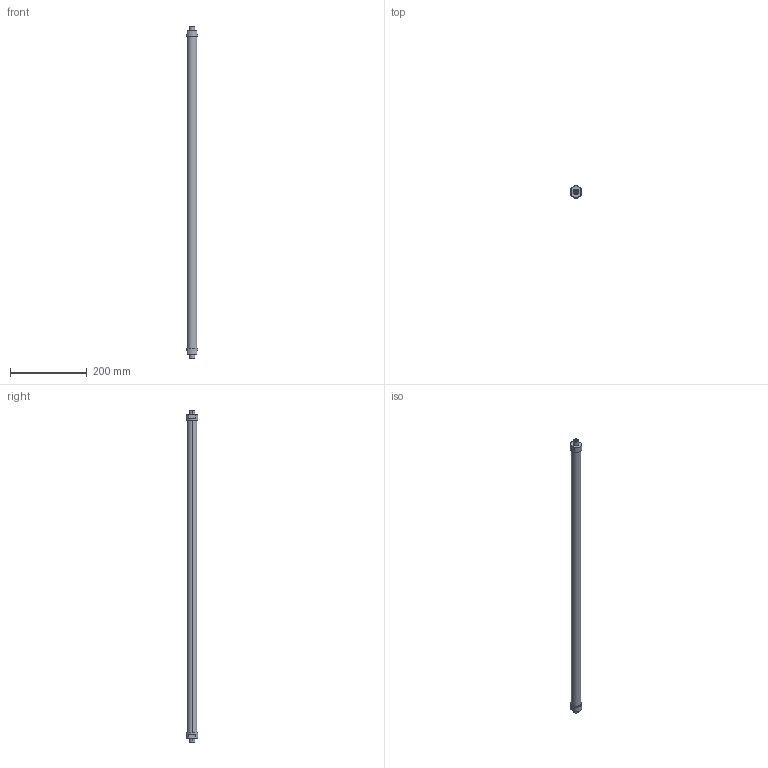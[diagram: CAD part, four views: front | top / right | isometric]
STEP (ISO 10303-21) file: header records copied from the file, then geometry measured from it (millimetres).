
FILE_DESCRIPTION(('STEP AP214'),'1');
FILE_NAME('ETT-R050G854.stp','2015-02-02T13:08:12',(' '),(' '),'Spatial InterOp 3D',' ',' ');
FILE_SCHEMA(('automotive_design'));
Length unit declared in the file: metre
Products named in the file (3): 1; 2; 3
Bounding box: 31 x 31 x 866 mm (x, y, z)
Volume: 399970.4 mm3; surface area: 86599.2 mm2
Topology: 1 solids, 7 shells, 32 faces, 86 edges, 66 vertices
Faces by surface type: cylinder 16, plane 16
Entity records: 1375 total; most frequent: DIRECTION 206, CARTESIAN_POINT 187, ORIENTED_EDGE 148, EDGE_CURVE 86, AXIS2_PLACEMENT_3D 85, VERTEX_POINT 66, CIRCLE 50, EDGE_LOOP 40
